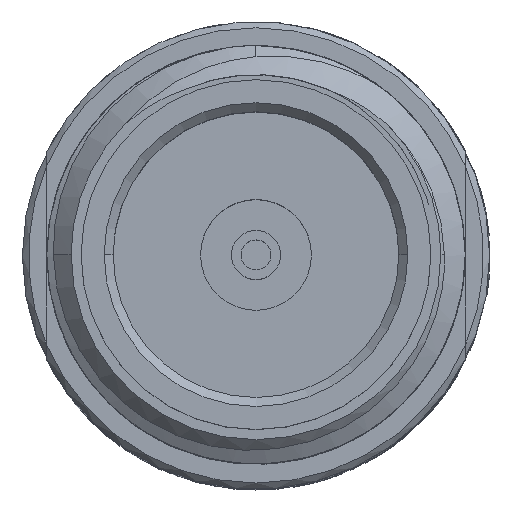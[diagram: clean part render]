
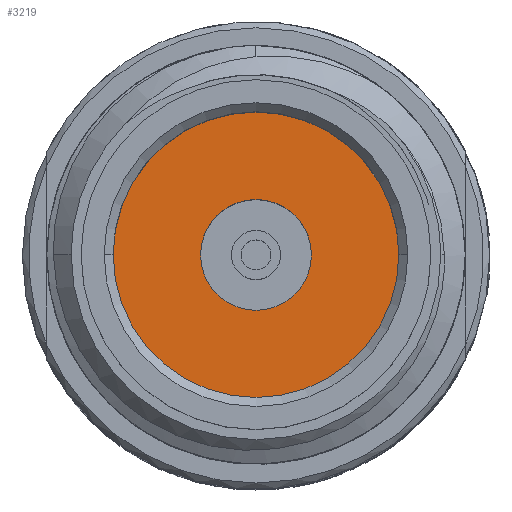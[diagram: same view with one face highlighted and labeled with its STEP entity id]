
A CAD part, top view. The second image highlights one B-rep face of the part: STEP entity #3219.
In plain terms, the highlighted planar face has unit normal (0, 0, 1).
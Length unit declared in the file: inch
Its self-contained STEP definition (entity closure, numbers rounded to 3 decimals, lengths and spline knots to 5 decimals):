
#983 = FACE_BOUND ( 'NONE', #8984, .T. ) ;
#985 = CARTESIAN_POINT ( 'NONE',  ( 0.03642, 0., 0.54921 ) ) ;
#1310 = DIRECTION ( 'NONE',  ( 0., 0., 1. ) ) ;
#1313 = ORIENTED_EDGE ( 'NONE', *, *, #13584, .T. ) ;
#2104 = VERTEX_POINT ( 'NONE', #985 ) ;
#2135 = AXIS2_PLACEMENT_3D ( 'NONE', #4883, #3578, #8290 ) ;
#2155 = VERTEX_POINT ( 'NONE', #12675 ) ;
#3030 = ORIENTED_EDGE ( 'NONE', *, *, #3237, .T. ) ;
#3219 = ADVANCED_FACE ( 'NONE', ( #6825, #983 ), #13757, .F. ) ;
#3237 = EDGE_CURVE ( 'NONE', #2155, #4323, #12945, .T. ) ;
#3578 = DIRECTION ( 'NONE',  ( 0., 0., 1. ) ) ;
#3711 = CIRCLE ( 'NONE', #7193, 0.03642 ) ;
#4323 = VERTEX_POINT ( 'NONE', #8001 ) ;
#4883 = CARTESIAN_POINT ( 'NONE',  ( 0., 0., 0.54921 ) ) ;
#4903 = VERTEX_POINT ( 'NONE', #14791 ) ;
#4936 = CIRCLE ( 'NONE', #12821, 0.0939 ) ;
#5985 = DIRECTION ( 'NONE',  ( 1., 0., 0. ) ) ;
#6219 = ORIENTED_EDGE ( 'NONE', *, *, #13431, .F. ) ;
#6825 = FACE_OUTER_BOUND ( 'NONE', #11414, .T. ) ;
#6978 = DIRECTION ( 'NONE',  ( -1., 0., 0. ) ) ;
#7033 = CARTESIAN_POINT ( 'NONE',  ( 0., 0., 0.54921 ) ) ;
#7193 = AXIS2_PLACEMENT_3D ( 'NONE', #7033, #14112, #10425 ) ;
#7784 = DIRECTION ( 'NONE',  ( 1., 0., 0. ) ) ;
#8001 = CARTESIAN_POINT ( 'NONE',  ( 0.0939, 0., 0.54921 ) ) ;
#8290 = DIRECTION ( 'NONE',  ( 1., 0., 0. ) ) ;
#8652 = CIRCLE ( 'NONE', #13061, 0.03642 ) ;
#8984 = EDGE_LOOP ( 'NONE', ( #6219, #9580 ) ) ;
#9580 = ORIENTED_EDGE ( 'NONE', *, *, #11349, .F. ) ;
#10425 = DIRECTION ( 'NONE',  ( 1., 0., 0. ) ) ;
#10620 = CARTESIAN_POINT ( 'NONE',  ( 0., 0., 0.54921 ) ) ;
#10742 = DIRECTION ( 'NONE',  ( 0., 0., -1. ) ) ;
#11349 = EDGE_CURVE ( 'NONE', #4903, #2104, #3711, .T. ) ;
#11414 = EDGE_LOOP ( 'NONE', ( #1313, #3030 ) ) ;
#12599 = CARTESIAN_POINT ( 'NONE',  ( 0., 0.0939, 0.54921 ) ) ;
#12675 = CARTESIAN_POINT ( 'NONE',  ( -0.0939, 0., 0.54921 ) ) ;
#12821 = AXIS2_PLACEMENT_3D ( 'NONE', #10620, #1310, #5985 ) ;
#12945 = CIRCLE ( 'NONE', #2135, 0.0939 ) ;
#13061 = AXIS2_PLACEMENT_3D ( 'NONE', #14016, #14940, #7784 ) ;
#13431 = EDGE_CURVE ( 'NONE', #2104, #4903, #8652, .T. ) ;
#13584 = EDGE_CURVE ( 'NONE', #4323, #2155, #4936, .T. ) ;
#13757 = PLANE ( 'NONE',  #14678 ) ;
#14016 = CARTESIAN_POINT ( 'NONE',  ( 0., 0., 0.54921 ) ) ;
#14112 = DIRECTION ( 'NONE',  ( 0., 0., 1. ) ) ;
#14678 = AXIS2_PLACEMENT_3D ( 'NONE', #12599, #10742, #6978 ) ;
#14791 = CARTESIAN_POINT ( 'NONE',  ( -0.03642, 0., 0.54921 ) ) ;
#14940 = DIRECTION ( 'NONE',  ( 0., 0., 1. ) ) ;
